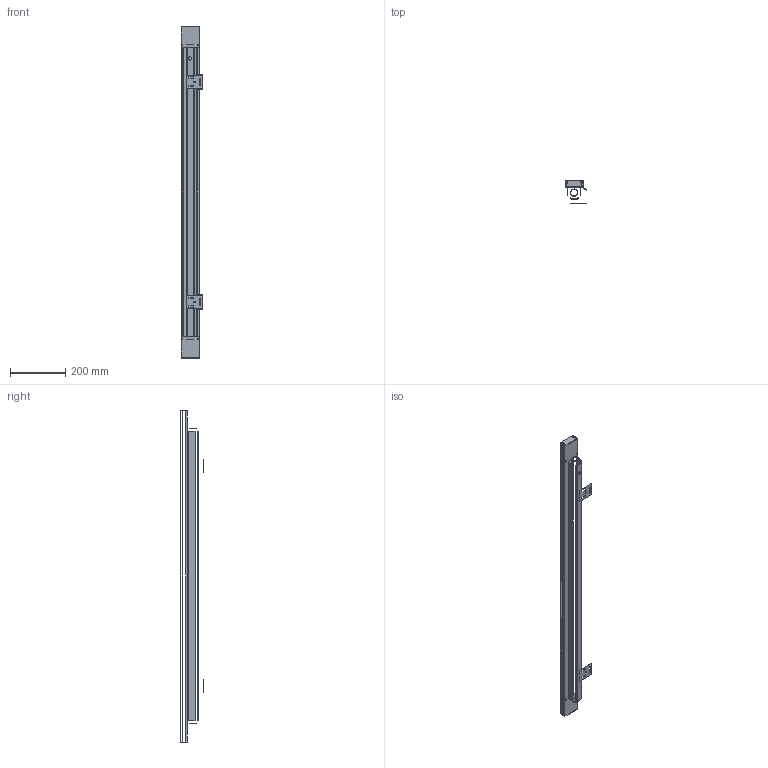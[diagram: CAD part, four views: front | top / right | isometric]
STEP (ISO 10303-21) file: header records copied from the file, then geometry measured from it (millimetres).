
FILE_DESCRIPTION((''),'2;1');
FILE_NAME('LYNEA_1200_SW0001','2025-07-28T10:55:00',('Piccioli'),(''),'CREO PARAMETRIC BY PTC INC, 2025010','CREO PARAMETRIC BY PTC INC, 2025010','');
FILE_SCHEMA(('CONFIG_CONTROL_DESIGN'));
Length unit declared in the file: millimetre
Products named in the file (1): LYNEA_1200_SW0001
Bounding box: 78.2 x 82.84 x 1206 mm (x, y, z)
Surface area: 186594.1 mm2 (no closed solid volume)
Topology: 0 solids, 23 shells, 28 faces, 270 edges, 262 vertices
Faces by surface type: plane 18, cylinder 10
Entity records: 2897 total; most frequent: CARTESIAN_POINT 882, DIRECTION 436, ORIENTED_EDGE 278, EDGE_CURVE 270, VERTEX_POINT 262, VECTOR 152, LINE 152, AXIS2_PLACEMENT_3D 142
